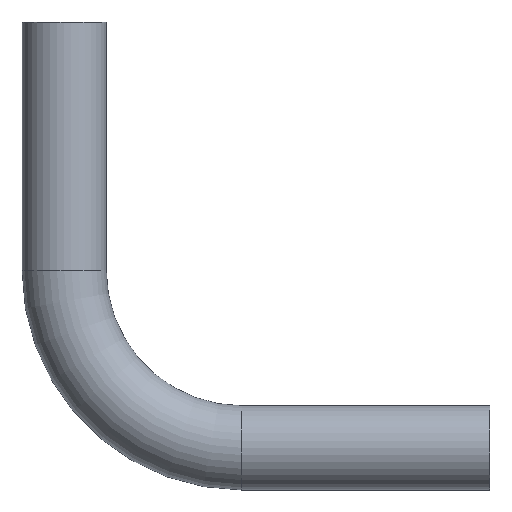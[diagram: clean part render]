
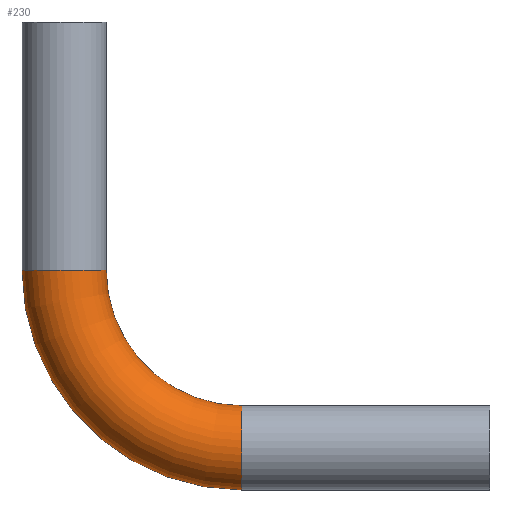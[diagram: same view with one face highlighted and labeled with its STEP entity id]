
A CAD part, top view. The second image highlights one B-rep face of the part: STEP entity #230.
In plain terms, the highlighted toroidal (fillet/blend) face has major radius 190 mm and minor radius 45 mm.
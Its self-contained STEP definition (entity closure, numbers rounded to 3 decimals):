
#2 = AXIS2_PLACEMENT_3D ( 'NONE', #390, #350, #405 ) ;
#4 = AXIS2_PLACEMENT_3D ( 'NONE', #368, #349, #366 ) ;
#19 = ORIENTED_EDGE ( 'NONE', *, *, #294, .T. ) ;
#26 = ORIENTED_EDGE ( 'NONE', *, *, #214, .T. ) ;
#55 = CARTESIAN_POINT ( 'NONE',  ( -185., 45., 0. ) ) ;
#57 = DIRECTION ( 'NONE',  ( 1., 0., 0. ) ) ;
#72 = DIRECTION ( 'NONE',  ( 0., 0., -1. ) ) ;
#73 = CARTESIAN_POINT ( 'NONE',  ( -185., -45., 0. ) ) ;
#74 = CARTESIAN_POINT ( 'NONE',  ( -420., 190., 0. ) ) ;
#81 = CARTESIAN_POINT ( 'NONE',  ( -330., 190., 0. ) ) ;
#102 = DIRECTION ( 'NONE',  ( -1., 0., 0. ) ) ;
#119 = CARTESIAN_POINT ( 'NONE',  ( -185., 0., 0. ) ) ;
#122 = CARTESIAN_POINT ( 'NONE',  ( -185., 190., 0. ) ) ;
#127 = DIRECTION ( 'NONE',  ( 0., 0., -1. ) ) ;
#131 = AXIS2_PLACEMENT_3D ( 'NONE', #122, #127, #102 ) ;
#136 = AXIS2_PLACEMENT_3D ( 'NONE', #119, #57, #72 ) ;
#163 = EDGE_LOOP ( 'NONE', ( #174, #195, #26, #19 ) ) ;
#165 = VERTEX_POINT ( 'NONE', #55 ) ;
#171 = VERTEX_POINT ( 'NONE', #73 ) ;
#174 = ORIENTED_EDGE ( 'NONE', *, *, #298, .F. ) ;
#186 = VERTEX_POINT ( 'NONE', #74 ) ;
#188 = VERTEX_POINT ( 'NONE', #81 ) ;
#195 = ORIENTED_EDGE ( 'NONE', *, *, #222, .F. ) ;
#214 = EDGE_CURVE ( 'NONE', #165, #188, #291, .T. ) ;
#222 = EDGE_CURVE ( 'NONE', #165, #171, #256, .T. ) ;
#230 = ADVANCED_FACE ( 'NONE', ( #241 ), #244, .T. ) ;
#241 = FACE_OUTER_BOUND ( 'NONE', #163, .T. ) ;
#244 = TOROIDAL_SURFACE ( 'NONE', #329, 190., 45. ) ;
#256 = CIRCLE ( 'NONE', #136, 45. ) ;
#291 = CIRCLE ( 'NONE', #131, 145. ) ;
#294 = EDGE_CURVE ( 'NONE', #188, #186, #313, .T. ) ;
#298 = EDGE_CURVE ( 'NONE', #171, #186, #328, .T. ) ;
#313 = CIRCLE ( 'NONE', #2, 45. ) ;
#328 = CIRCLE ( 'NONE', #4, 235. ) ;
#329 = AXIS2_PLACEMENT_3D ( 'NONE', #406, #416, #411 ) ;
#349 = DIRECTION ( 'NONE',  ( 0., 0., -1. ) ) ;
#350 = DIRECTION ( 'NONE',  ( 0., -1., 0. ) ) ;
#366 = DIRECTION ( 'NONE',  ( -1., 0., 0. ) ) ;
#368 = CARTESIAN_POINT ( 'NONE',  ( -185., 190., 0. ) ) ;
#390 = CARTESIAN_POINT ( 'NONE',  ( -375., 190., 0. ) ) ;
#405 = DIRECTION ( 'NONE',  ( 0., 0., -1. ) ) ;
#406 = CARTESIAN_POINT ( 'NONE',  ( -185., 190., 0. ) ) ;
#411 = DIRECTION ( 'NONE',  ( -1., 0., 0. ) ) ;
#416 = DIRECTION ( 'NONE',  ( 0., 0., -1. ) ) ;
